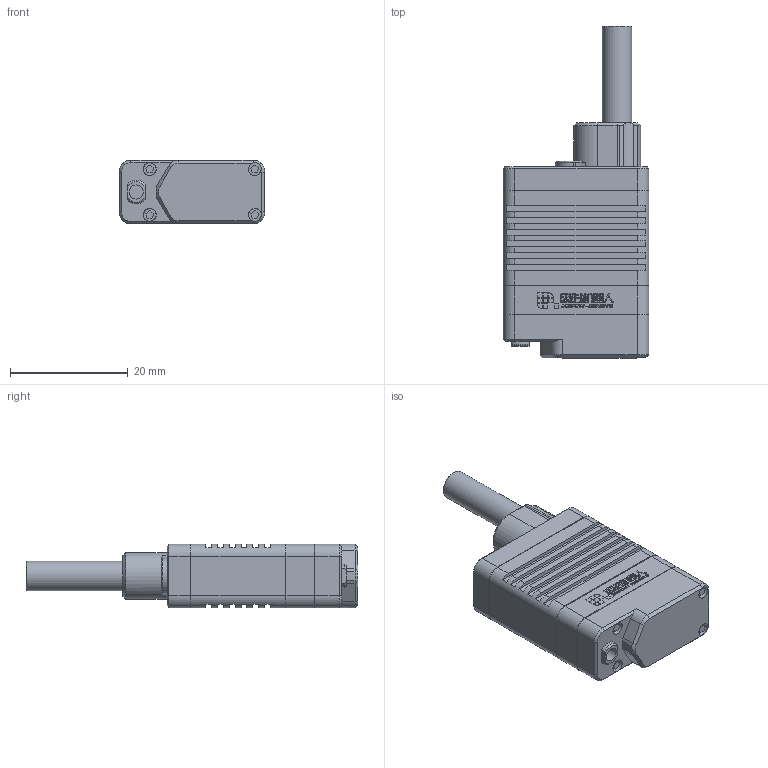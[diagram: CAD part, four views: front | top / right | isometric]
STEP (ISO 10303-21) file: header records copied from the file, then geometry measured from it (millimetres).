
FILE_DESCRIPTION (( 'STEP AP203' ), '1' );
FILE_NAME ('LAS16-0x1D-1128.STEP', '2023-11-28T06:02:08', ( '' ), ( '' ), '' );
FILE_SCHEMA (( 'CONFIG_CONTROL_DESIGN' ));
Length unit declared in the file: millimetre
Products named in the file (3): LAS16-0x1D-1128; Part5^LAS16-0x1D; exA820116-015祥凄詩杶奪
Assembly tree (2 placements, depth 2):
  LAS16-0x1D-1128
    exA820116-015祥凄詩杶奪
    Part5^LAS16-0x1D
Bounding box: 24.8 x 56.5 x 10.8 mm (x, y, z)
Volume: 8743.3 mm3; surface area: 4076.9 mm2
Topology: 2 solids, 2 shells, 1337 faces, 3563 edges, 2340 vertices
Faces by surface type: plane 803, bspline 416, cylinder 55, cone 47, torus 16
Full cylindrical faces by diameter (mm): 2 x4, 2.17 x4, 2.2 x8, 2.4 x1, 2.5 x1, 5 x2
Entity records: 43642 total; most frequent: CARTESIAN_POINT 12983, ORIENTED_EDGE 7060, DIRECTION 4731, EDGE_CURVE 3530, LINE 2411, VECTOR 2411, VERTEX_POINT 2330, EDGE_LOOP 1470
